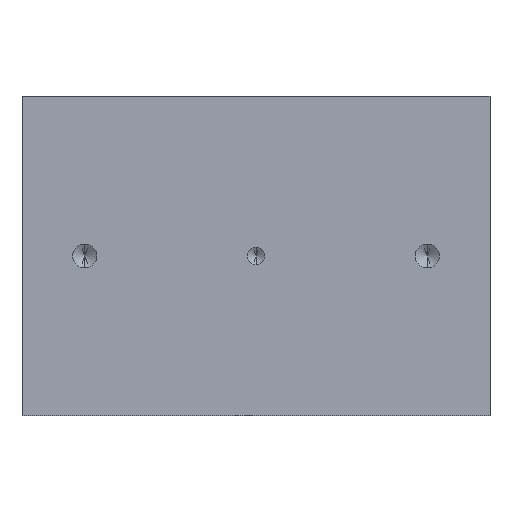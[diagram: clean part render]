
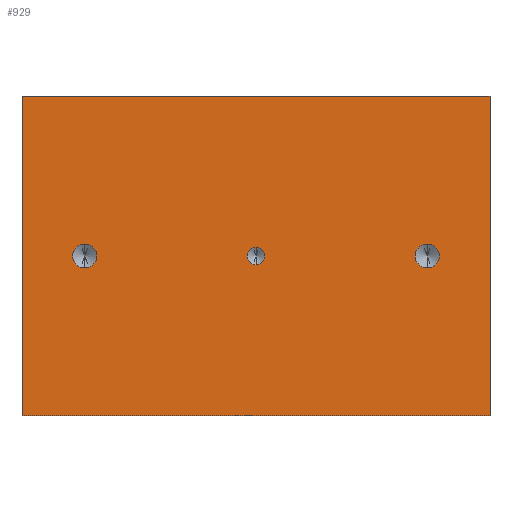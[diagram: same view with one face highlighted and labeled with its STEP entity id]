
A CAD part, front view. The second image highlights one B-rep face of the part: STEP entity #929.
In plain terms, the highlighted planar face has unit normal (0, -1, 0).
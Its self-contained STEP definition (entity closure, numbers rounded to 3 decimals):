
#21 = CIRCLE ( 'NONE', #87, 2.1 ) ;
#38 = CIRCLE ( 'NONE', #67, 1.5 ) ;
#67 = AXIS2_PLACEMENT_3D ( 'NONE', #405, #422, #423 ) ;
#76 = AXIS2_PLACEMENT_3D ( 'NONE', #1274, #1277, #1278 ) ;
#87 = AXIS2_PLACEMENT_3D ( 'NONE', #383, #396, #397 ) ;
#89 = AXIS2_PLACEMENT_3D ( 'NONE', #1297, #377, #378 ) ;
#161 = EDGE_CURVE ( 'NONE', #1881, #1854, #2016, .T. ) ;
#266 = PLANE ( 'NONE',  #562 ) ;
#267 = CARTESIAN_POINT ( 'NONE',  ( 0., 0., 56. ) ) ;
#268 = DIRECTION ( 'NONE',  ( 0., 1., 0. ) ) ;
#269 = DIRECTION ( 'NONE',  ( 0., 0., 1. ) ) ;
#306 = CARTESIAN_POINT ( 'NONE',  ( 71., 0., 28. ) ) ;
#318 = DIRECTION ( 'NONE',  ( 0., -1., 0. ) ) ;
#319 = DIRECTION ( 'NONE',  ( 0., 0., -1. ) ) ;
#359 = CIRCLE ( 'NONE', #596, 2.1 ) ;
#377 = DIRECTION ( 'NONE',  ( 0., -1., 0. ) ) ;
#378 = DIRECTION ( 'NONE',  ( 0., 0., -1. ) ) ;
#383 = CARTESIAN_POINT ( 'NONE',  ( 11., 0., 28. ) ) ;
#396 = DIRECTION ( 'NONE',  ( 0., -1., 0. ) ) ;
#397 = DIRECTION ( 'NONE',  ( 0., 0., -1. ) ) ;
#405 = CARTESIAN_POINT ( 'NONE',  ( 41., 0., 28. ) ) ;
#422 = DIRECTION ( 'NONE',  ( 0., -1., 0. ) ) ;
#423 = DIRECTION ( 'NONE',  ( 0., 0., -1. ) ) ;
#559 = AXIS2_PLACEMENT_3D ( 'NONE', #306, #318, #319 ) ;
#562 = AXIS2_PLACEMENT_3D ( 'NONE', #267, #268, #269 ) ;
#596 = AXIS2_PLACEMENT_3D ( 'NONE', #1680, #1687, #1688 ) ;
#679 = EDGE_CURVE ( 'NONE', #1834, #2260, #880, .T. ) ;
#708 = EDGE_CURVE ( 'NONE', #1864, #1818, #359, .T. ) ;
#771 = CIRCLE ( 'NONE', #559, 2.1 ) ;
#787 = LINE ( 'NONE', #1267, #807 ) ;
#789 = LINE ( 'NONE', #1247, #790 ) ;
#790 = VECTOR ( 'NONE', #1248, 1000. ) ;
#807 = VECTOR ( 'NONE', #1270, 1000. ) ;
#812 = CIRCLE ( 'NONE', #76, 2.1 ) ;
#880 = LINE ( 'NONE', #2053, #883 ) ;
#883 = VECTOR ( 'NONE', #2057, 1000. ) ;
#929 = ADVANCED_FACE ( 'NONE', ( #2118, #2123, #2125, #2127 ), #266, .F. ) ;
#934 = EDGE_LOOP ( 'NONE', ( #1481, #1569 ) ) ;
#992 = EDGE_LOOP ( 'NONE', ( #1477, #1470 ) ) ;
#1001 = EDGE_LOOP ( 'NONE', ( #1570, #1571, #1572, #1573 ) ) ;
#1011 = EDGE_LOOP ( 'NONE', ( #1468, #1476 ) ) ;
#1118 = CARTESIAN_POINT ( 'NONE',  ( 82., 0., 0. ) ) ;
#1173 = CIRCLE ( 'NONE', #89, 1.5 ) ;
#1247 = CARTESIAN_POINT ( 'NONE',  ( 0., 0., 56. ) ) ;
#1248 = DIRECTION ( 'NONE',  ( 1., 0., 0. ) ) ;
#1267 = CARTESIAN_POINT ( 'NONE',  ( 0., 0., 0. ) ) ;
#1270 = DIRECTION ( 'NONE',  ( -1., 0., 0. ) ) ;
#1274 = CARTESIAN_POINT ( 'NONE',  ( 71., 0., 28. ) ) ;
#1277 = DIRECTION ( 'NONE',  ( 0., -1., 0. ) ) ;
#1278 = DIRECTION ( 'NONE',  ( 0., 0., -1. ) ) ;
#1297 = CARTESIAN_POINT ( 'NONE',  ( 41., 0., 28. ) ) ;
#1336 = DIRECTION ( 'NONE',  ( 0., 0., -1. ) ) ;
#1468 = ORIENTED_EDGE ( 'NONE', *, *, #1635, .F. ) ;
#1470 = ORIENTED_EDGE ( 'NONE', *, *, #1646, .F. ) ;
#1476 = ORIENTED_EDGE ( 'NONE', *, *, #708, .F. ) ;
#1477 = ORIENTED_EDGE ( 'NONE', *, *, #1627, .F. ) ;
#1481 = ORIENTED_EDGE ( 'NONE', *, *, #1615, .F. ) ;
#1569 = ORIENTED_EDGE ( 'NONE', *, *, #1590, .F. ) ;
#1570 = ORIENTED_EDGE ( 'NONE', *, *, #679, .F. ) ;
#1571 = ORIENTED_EDGE ( 'NONE', *, *, #1612, .F. ) ;
#1572 = ORIENTED_EDGE ( 'NONE', *, *, #161, .F. ) ;
#1573 = ORIENTED_EDGE ( 'NONE', *, *, #1602, .F. ) ;
#1590 = EDGE_CURVE ( 'NONE', #1832, #1859, #771, .T. ) ;
#1602 = EDGE_CURVE ( 'NONE', #2260, #1881, #789, .T. ) ;
#1612 = EDGE_CURVE ( 'NONE', #1854, #1834, #787, .T. ) ;
#1615 = EDGE_CURVE ( 'NONE', #1859, #1832, #812, .T. ) ;
#1627 = EDGE_CURVE ( 'NONE', #1847, #2199, #1173, .T. ) ;
#1635 = EDGE_CURVE ( 'NONE', #1818, #1864, #21, .T. ) ;
#1646 = EDGE_CURVE ( 'NONE', #2199, #1847, #38, .T. ) ;
#1680 = CARTESIAN_POINT ( 'NONE',  ( 11., 0., 28. ) ) ;
#1687 = DIRECTION ( 'NONE',  ( 0., -1., 0. ) ) ;
#1688 = DIRECTION ( 'NONE',  ( 0., 0., -1. ) ) ;
#1818 = VERTEX_POINT ( 'NONE', #2378 ) ;
#1832 = VERTEX_POINT ( 'NONE', #2390 ) ;
#1834 = VERTEX_POINT ( 'NONE', #2392 ) ;
#1847 = VERTEX_POINT ( 'NONE', #2405 ) ;
#1854 = VERTEX_POINT ( 'NONE', #2412 ) ;
#1859 = VERTEX_POINT ( 'NONE', #2417 ) ;
#1864 = VERTEX_POINT ( 'NONE', #2422 ) ;
#1881 = VERTEX_POINT ( 'NONE', #2439 ) ;
#2016 = LINE ( 'NONE', #1118, #2019 ) ;
#2019 = VECTOR ( 'NONE', #1336, 1000. ) ;
#2053 = CARTESIAN_POINT ( 'NONE',  ( 0., 0., 0. ) ) ;
#2057 = DIRECTION ( 'NONE',  ( 0., 0., 1. ) ) ;
#2118 = FACE_BOUND ( 'NONE', #992, .T. ) ;
#2123 = FACE_BOUND ( 'NONE', #1011, .T. ) ;
#2125 = FACE_BOUND ( 'NONE', #934, .T. ) ;
#2127 = FACE_OUTER_BOUND ( 'NONE', #1001, .T. ) ;
#2199 = VERTEX_POINT ( 'NONE', #2289 ) ;
#2260 = VERTEX_POINT ( 'NONE', #2303 ) ;
#2289 = CARTESIAN_POINT ( 'NONE',  ( 41., 0., 29.5 ) ) ;
#2303 = CARTESIAN_POINT ( 'NONE',  ( 0., 0., 56. ) ) ;
#2378 = CARTESIAN_POINT ( 'NONE',  ( 11., 0., 25.9 ) ) ;
#2390 = CARTESIAN_POINT ( 'NONE',  ( 71., 0., 30.1 ) ) ;
#2392 = CARTESIAN_POINT ( 'NONE',  ( 0., 0., 0. ) ) ;
#2405 = CARTESIAN_POINT ( 'NONE',  ( 41., 0., 26.5 ) ) ;
#2412 = CARTESIAN_POINT ( 'NONE',  ( 82., 0., 0. ) ) ;
#2417 = CARTESIAN_POINT ( 'NONE',  ( 71., 0., 25.9 ) ) ;
#2422 = CARTESIAN_POINT ( 'NONE',  ( 11., 0., 30.1 ) ) ;
#2439 = CARTESIAN_POINT ( 'NONE',  ( 82., 0., 56. ) ) ;
